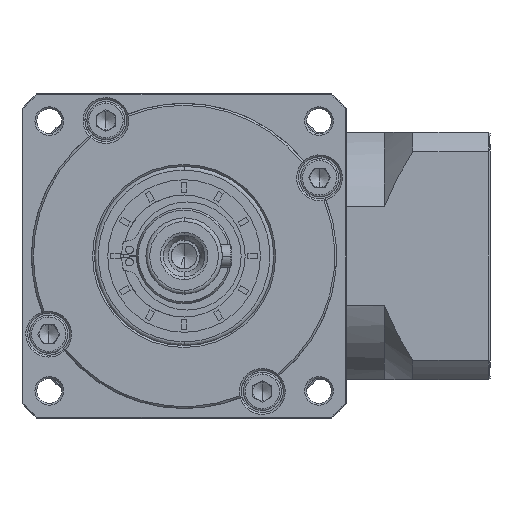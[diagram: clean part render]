
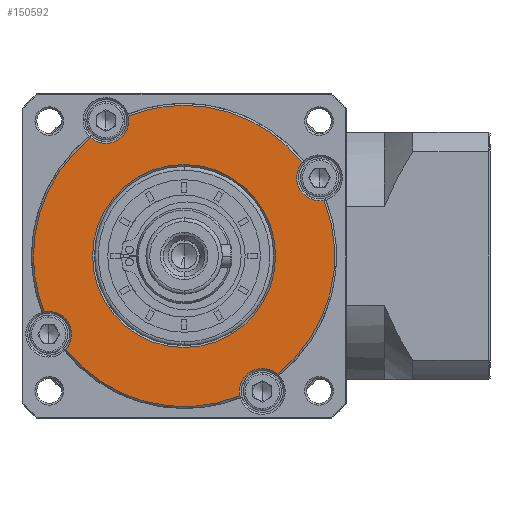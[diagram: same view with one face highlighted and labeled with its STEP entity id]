
A CAD part, left-side view. The second image highlights one B-rep face of the part: STEP entity #150592.
In plain terms, the highlighted planar face has unit normal (-1, 0, 0).
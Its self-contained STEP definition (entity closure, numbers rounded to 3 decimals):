
#461 = CARTESIAN_POINT ( 'NONE',  ( -100.828, 8.173, -88.569 ) ) ;
#2544 = VERTEX_POINT ( 'NONE', #91567 ) ;
#7893 = CARTESIAN_POINT ( 'NONE',  ( -100.828, 14.054, -89.757 ) ) ;
#8037 = AXIS2_PLACEMENT_3D ( 'NONE', #37149, #131882, #50830 ) ;
#8474 = EDGE_CURVE ( 'NONE', #2544, #48236, #149583, .T. ) ;
#8824 = VERTEX_POINT ( 'NONE', #131581 ) ;
#10153 = DIRECTION ( 'NONE',  ( 0., 0., -1. ) ) ;
#10937 = ORIENTED_EDGE ( 'NONE', *, *, #99206, .F. ) ;
#11310 = ORIENTED_EDGE ( 'NONE', *, *, #159398, .T. ) ;
#11576 = CARTESIAN_POINT ( 'NONE',  ( -100.828, 18.024, -94.256 ) ) ;
#14197 = EDGE_LOOP ( 'NONE', ( #84521, #46520 ) ) ;
#14858 = DIRECTION ( 'NONE',  ( 1., 0., 0. ) ) ;
#15747 = EDGE_CURVE ( 'NONE', #8824, #44791, #132060, .T. ) ;
#17100 = VERTEX_POINT ( 'NONE', #84404 ) ;
#17212 = CARTESIAN_POINT ( 'NONE',  ( -100.828, -6.446, -125.264 ) ) ;
#21053 = EDGE_CURVE ( 'NONE', #95991, #133003, #56512, .T. ) ;
#21514 = DIRECTION ( 'NONE',  ( 0., 0., -1. ) ) ;
#21965 = CARTESIAN_POINT ( 'NONE',  ( -100.828, 24.562, -149.734 ) ) ;
#22444 = ORIENTED_EDGE ( 'NONE', *, *, #21053, .F. ) ;
#22750 = AXIS2_PLACEMENT_3D ( 'NONE', #43214, #137961, #56801 ) ;
#22752 = CARTESIAN_POINT ( 'NONE',  ( -100.828, -6.446, -125.264 ) ) ;
#23185 = PLANE ( 'NONE',  #128178 ) ;
#25365 = EDGE_CURVE ( 'NONE', #130814, #85063, #65021, .T. ) ;
#30292 = DIRECTION ( 'NONE',  ( 1., 0., 0. ) ) ;
#30772 = CIRCLE ( 'NONE', #157422, 6. ) ;
#30993 = DIRECTION ( 'NONE',  ( 0., 0., 1. ) ) ;
#31319 = DIRECTION ( 'NONE',  ( 1., 0., 0. ) ) ;
#31945 = VERTEX_POINT ( 'NONE', #11576 ) ;
#35710 = DIRECTION ( 'NONE',  ( 1., 0., 0. ) ) ;
#35768 = EDGE_LOOP ( 'NONE', ( #76326, #125946, #51201, #10937, #45108, #133645, #161314, #11310, #22444, #97245, #168510, #130729 ) ) ;
#36512 = DIRECTION ( 'NONE',  ( 0., -1., 0. ) ) ;
#37099 = CIRCLE ( 'NONE', #149773, 6. ) ;
#37149 = CARTESIAN_POINT ( 'NONE',  ( -100.828, -6.446, -125.264 ) ) ;
#41884 = FACE_BOUND ( 'NONE', #14197, .T. ) ;
#43214 = CARTESIAN_POINT ( 'NONE',  ( -100.828, -6.446, -125.264 ) ) ;
#44791 = VERTEX_POINT ( 'NONE', #21965 ) ;
#45108 = ORIENTED_EDGE ( 'NONE', *, *, #158766, .F. ) ;
#45644 = CARTESIAN_POINT ( 'NONE',  ( -100.828, 14.054, -89.757 ) ) ;
#46200 = FACE_OUTER_BOUND ( 'NONE', #35768, .T. ) ;
#46520 = ORIENTED_EDGE ( 'NONE', *, *, #116470, .T. ) ;
#46811 = DIRECTION ( 'NONE',  ( 1., 0., 0. ) ) ;
#46848 = DIRECTION ( 'NONE',  ( 1., 0., 0. ) ) ;
#47071 = AXIS2_PLACEMENT_3D ( 'NONE', #111405, #30292, #125072 ) ;
#48236 = VERTEX_POINT ( 'NONE', #100759 ) ;
#50260 = AXIS2_PLACEMENT_3D ( 'NONE', #22752, #117678, #36512 ) ;
#50830 = DIRECTION ( 'NONE',  ( 0., -1., 0. ) ) ;
#51201 = ORIENTED_EDGE ( 'NONE', *, *, #163584, .T. ) ;
#54269 = AXIS2_PLACEMENT_3D ( 'NONE', #17212, #112102, #30993 ) ;
#56512 = CIRCLE ( 'NONE', #22750, 39.5 ) ;
#56801 = DIRECTION ( 'NONE',  ( 0., 0., 1. ) ) ;
#59203 = DIRECTION ( 'NONE',  ( 0., 0., -1. ) ) ;
#59346 = CIRCLE ( 'NONE', #102391, 6. ) ;
#63356 = CARTESIAN_POINT ( 'NONE',  ( -100.828, 33.054, -125.264 ) ) ;
#65021 = CIRCLE ( 'NONE', #54269, 39.5 ) ;
#68661 = EDGE_CURVE ( 'NONE', #150185, #44791, #30772, .T. ) ;
#71127 = CARTESIAN_POINT ( 'NONE',  ( -100.828, -6.446, -85.764 ) ) ;
#75199 = CARTESIAN_POINT ( 'NONE',  ( -100.828, -43.141, -110.645 ) ) ;
#76326 = ORIENTED_EDGE ( 'NONE', *, *, #25365, .F. ) ;
#78562 = CIRCLE ( 'NONE', #8037, 24. ) ;
#79808 = DIRECTION ( 'NONE',  ( 1., 0., 0. ) ) ;
#79910 = CARTESIAN_POINT ( 'NONE',  ( -100.828, -6.446, -125.264 ) ) ;
#80177 = CIRCLE ( 'NONE', #165989, 39.5 ) ;
#84404 = CARTESIAN_POINT ( 'NONE',  ( -100.828, 17.554, -125.264 ) ) ;
#84521 = ORIENTED_EDGE ( 'NONE', *, *, #122156, .T. ) ;
#84978 = CARTESIAN_POINT ( 'NONE',  ( -100.828, -30.915, -156.272 ) ) ;
#85063 = VERTEX_POINT ( 'NONE', #71127 ) ;
#87785 = AXIS2_PLACEMENT_3D ( 'NONE', #96091, #14858, #109736 ) ;
#91402 = DIRECTION ( 'NONE',  ( -1., 0., 0. ) ) ;
#91567 = CARTESIAN_POINT ( 'NONE',  ( -100.828, -41.953, -110.764 ) ) ;
#93481 = DIRECTION ( 'NONE',  ( 0., 0., 1. ) ) ;
#95991 = VERTEX_POINT ( 'NONE', #75199 ) ;
#96091 = CARTESIAN_POINT ( 'NONE',  ( -100.828, -41.953, -104.764 ) ) ;
#97245 = ORIENTED_EDGE ( 'NONE', *, *, #102549, .T. ) ;
#97708 = AXIS2_PLACEMENT_3D ( 'NONE', #116838, #35710, #130432 ) ;
#99206 = EDGE_CURVE ( 'NONE', #128287, #31945, #148852, .T. ) ;
#100759 = CARTESIAN_POINT ( 'NONE',  ( -100.828, -37.454, -100.795 ) ) ;
#102391 = AXIS2_PLACEMENT_3D ( 'NONE', #161000, #79808, #174650 ) ;
#102549 = EDGE_CURVE ( 'NONE', #95991, #2544, #37099, .T. ) ;
#102811 = DIRECTION ( 'NONE',  ( 1., 0., 0. ) ) ;
#109736 = DIRECTION ( 'NONE',  ( 0., 0., -1. ) ) ;
#111405 = CARTESIAN_POINT ( 'NONE',  ( -100.828, -6.446, -125.264 ) ) ;
#112102 = DIRECTION ( 'NONE',  ( 1., 0., 0. ) ) ;
#112405 = CARTESIAN_POINT ( 'NONE',  ( -100.828, -6.446, -125.264 ) ) ;
#114250 = CIRCLE ( 'NONE', #50260, 24. ) ;
#116219 = EDGE_CURVE ( 'NONE', #85063, #48236, #80177, .T. ) ;
#116470 = EDGE_CURVE ( 'NONE', #17100, #164214, #114250, .T. ) ;
#116838 = CARTESIAN_POINT ( 'NONE',  ( -100.828, -6.446, -125.264 ) ) ;
#117678 = DIRECTION ( 'NONE',  ( 1., 0., 0. ) ) ;
#122156 = EDGE_CURVE ( 'NONE', #164214, #17100, #78562, .T. ) ;
#125072 = DIRECTION ( 'NONE',  ( 0., 1., 0. ) ) ;
#125946 = ORIENTED_EDGE ( 'NONE', *, *, #171010, .T. ) ;
#126052 = DIRECTION ( 'NONE',  ( 0., 0., 1. ) ) ;
#127918 = CARTESIAN_POINT ( 'NONE',  ( -100.828, 29.061, -145.764 ) ) ;
#127955 = CARTESIAN_POINT ( 'NONE',  ( -100.828, -41.953, -104.764 ) ) ;
#128178 = AXIS2_PLACEMENT_3D ( 'NONE', #172662, #91402, #10153 ) ;
#128287 = VERTEX_POINT ( 'NONE', #63356 ) ;
#130432 = DIRECTION ( 'NONE',  ( 0., 1., 0. ) ) ;
#130729 = ORIENTED_EDGE ( 'NONE', *, *, #116219, .F. ) ;
#130814 = VERTEX_POINT ( 'NONE', #461 ) ;
#131581 = CARTESIAN_POINT ( 'NONE',  ( -100.828, -21.065, -161.96 ) ) ;
#131882 = DIRECTION ( 'NONE',  ( 1., 0., 0. ) ) ;
#132060 = CIRCLE ( 'NONE', #139917, 39.5 ) ;
#132538 = VERTEX_POINT ( 'NONE', #152133 ) ;
#133003 = VERTEX_POINT ( 'NONE', #84978 ) ;
#133645 = ORIENTED_EDGE ( 'NONE', *, *, #68661, .T. ) ;
#137961 = DIRECTION ( 'NONE',  ( 1., 0., 0. ) ) ;
#139576 = AXIS2_PLACEMENT_3D ( 'NONE', #45644, #140395, #59203 ) ;
#139606 = CARTESIAN_POINT ( 'NONE',  ( -100.828, -30.446, -125.264 ) ) ;
#139917 = AXIS2_PLACEMENT_3D ( 'NONE', #79910, #174759, #93481 ) ;
#140395 = DIRECTION ( 'NONE',  ( 1., 0., 0. ) ) ;
#141578 = DIRECTION ( 'NONE',  ( 0., 0., -1. ) ) ;
#141612 = DIRECTION ( 'NONE',  ( 0., 0., -1. ) ) ;
#148095 = CIRCLE ( 'NONE', #169384, 6. ) ;
#148852 = CIRCLE ( 'NONE', #47071, 39.5 ) ;
#149583 = CIRCLE ( 'NONE', #87785, 6. ) ;
#149773 = AXIS2_PLACEMENT_3D ( 'NONE', #127955, #46848, #141612 ) ;
#150185 = VERTEX_POINT ( 'NONE', #165862 ) ;
#150592 = ADVANCED_FACE ( 'NONE', ( #46200, #41884 ), #23185, .T. ) ;
#152133 = CARTESIAN_POINT ( 'NONE',  ( -100.828, 14.054, -95.757 ) ) ;
#157082 = CIRCLE ( 'NONE', #97708, 39.5 ) ;
#157422 = AXIS2_PLACEMENT_3D ( 'NONE', #127918, #46811, #141578 ) ;
#158766 = EDGE_CURVE ( 'NONE', #150185, #128287, #157082, .T. ) ;
#159398 = EDGE_CURVE ( 'NONE', #8824, #133003, #59346, .T. ) ;
#161000 = CARTESIAN_POINT ( 'NONE',  ( -100.828, -26.946, -160.771 ) ) ;
#161314 = ORIENTED_EDGE ( 'NONE', *, *, #15747, .F. ) ;
#163584 = EDGE_CURVE ( 'NONE', #132538, #31945, #172393, .T. ) ;
#164214 = VERTEX_POINT ( 'NONE', #139606 ) ;
#165862 = CARTESIAN_POINT ( 'NONE',  ( -100.828, 30.249, -139.883 ) ) ;
#165989 = AXIS2_PLACEMENT_3D ( 'NONE', #112405, #31319, #126052 ) ;
#168510 = ORIENTED_EDGE ( 'NONE', *, *, #8474, .T. ) ;
#169384 = AXIS2_PLACEMENT_3D ( 'NONE', #7893, #102811, #21514 ) ;
#171010 = EDGE_CURVE ( 'NONE', #130814, #132538, #148095, .T. ) ;
#172393 = CIRCLE ( 'NONE', #139576, 6. ) ;
#172662 = CARTESIAN_POINT ( 'NONE',  ( -100.828, -6.446, -125.264 ) ) ;
#174650 = DIRECTION ( 'NONE',  ( 0., 0., -1. ) ) ;
#174759 = DIRECTION ( 'NONE',  ( 1., 0., 0. ) ) ;
